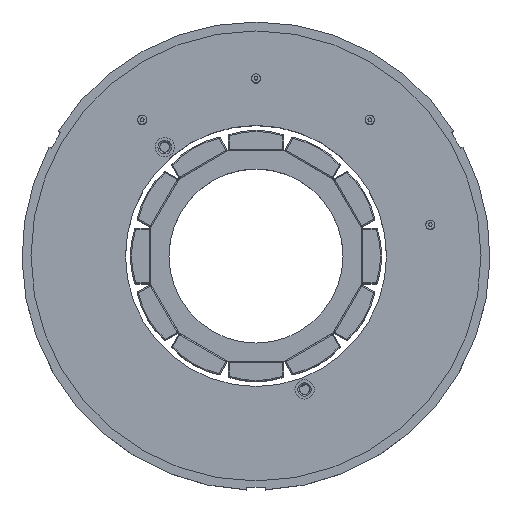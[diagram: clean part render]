
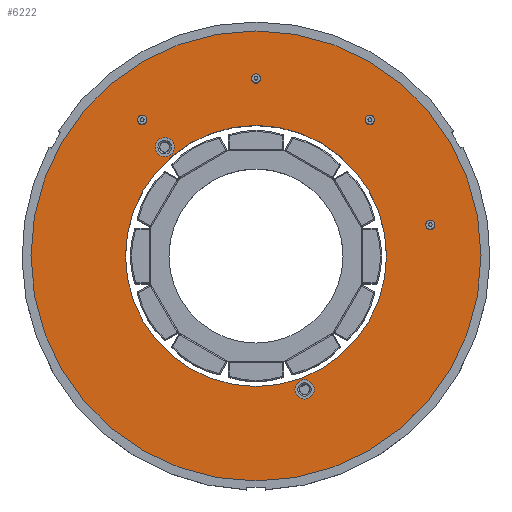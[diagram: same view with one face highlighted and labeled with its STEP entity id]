
A CAD part, top view. The second image highlights one B-rep face of the part: STEP entity #6222.
In plain terms, the highlighted planar face has unit normal (0, 0, 1).
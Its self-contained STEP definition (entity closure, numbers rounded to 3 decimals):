
#1268=PLANE('',#6887);
#1430=ORIENTED_EDGE('',*,*,#3053,.T.);
#1431=ORIENTED_EDGE('',*,*,#3055,.T.);
#1432=ORIENTED_EDGE('',*,*,#3056,.T.);
#1433=ORIENTED_EDGE('',*,*,#3057,.T.);
#1434=ORIENTED_EDGE('',*,*,#3058,.T.);
#1435=ORIENTED_EDGE('',*,*,#3059,.T.);
#1436=ORIENTED_EDGE('',*,*,#3060,.T.);
#1437=ORIENTED_EDGE('',*,*,#3061,.F.);
#3053=EDGE_CURVE('',#4157,#4157,#4871,.T.);
#3055=EDGE_CURVE('',#4159,#4159,#4873,.T.);
#3056=EDGE_CURVE('',#4160,#4160,#4874,.T.);
#3057=EDGE_CURVE('',#4161,#4161,#4875,.T.);
#3058=EDGE_CURVE('',#4162,#4162,#4876,.T.);
#3059=EDGE_CURVE('',#4163,#4163,#4877,.T.);
#3060=EDGE_CURVE('',#4164,#4164,#4878,.T.);
#3061=EDGE_CURVE('',#4165,#4165,#4879,.T.);
#4157=VERTEX_POINT('',#9393);
#4159=VERTEX_POINT('',#9398);
#4160=VERTEX_POINT('',#9401);
#4161=VERTEX_POINT('',#9403);
#4162=VERTEX_POINT('',#9405);
#4163=VERTEX_POINT('',#9407);
#4164=VERTEX_POINT('',#9409);
#4165=VERTEX_POINT('',#9411);
#4871=CIRCLE('',#6883,1.6);
#4873=CIRCLE('',#6886,1.6);
#4874=CIRCLE('',#6888,0.5);
#4875=CIRCLE('',#6889,0.5);
#4876=CIRCLE('',#6890,0.5);
#4877=CIRCLE('',#6891,0.5);
#4878=CIRCLE('',#6892,21.75);
#4879=CIRCLE('',#6893,37.5);
#5236=EDGE_LOOP('',(#1430));
#5237=EDGE_LOOP('',(#1431));
#5238=EDGE_LOOP('',(#1432));
#5239=EDGE_LOOP('',(#1433));
#5240=EDGE_LOOP('',(#1434));
#5241=EDGE_LOOP('',(#1435));
#5242=EDGE_LOOP('',(#1436));
#5243=EDGE_LOOP('',(#1437));
#5672=FACE_BOUND('',#5236,.T.);
#5673=FACE_BOUND('',#5237,.T.);
#5674=FACE_BOUND('',#5238,.T.);
#5675=FACE_BOUND('',#5239,.T.);
#5676=FACE_BOUND('',#5240,.T.);
#5677=FACE_BOUND('',#5241,.T.);
#5678=FACE_BOUND('',#5242,.T.);
#5679=FACE_BOUND('',#5243,.T.);
#6222=ADVANCED_FACE('',(#5672,#5673,#5674,#5675,#5676,#5677,#5678,#5679),
#1268,.F.);
#6883=AXIS2_PLACEMENT_3D('',#9392,#7586,#7587);
#6886=AXIS2_PLACEMENT_3D('',#9397,#7592,#7593);
#6887=AXIS2_PLACEMENT_3D('',#9399,#7594,#7595);
#6888=AXIS2_PLACEMENT_3D('',#9400,#7596,#7597);
#6889=AXIS2_PLACEMENT_3D('',#9402,#7598,#7599);
#6890=AXIS2_PLACEMENT_3D('',#9404,#7600,#7601);
#6891=AXIS2_PLACEMENT_3D('',#9406,#7602,#7603);
#6892=AXIS2_PLACEMENT_3D('',#9408,#7604,#7605);
#6893=AXIS2_PLACEMENT_3D('',#9410,#7606,#7607);
#7586=DIRECTION('',(0.,0.,-1.));
#7587=DIRECTION('',(0.,-1.,0.));
#7592=DIRECTION('',(0.,0.,-1.));
#7593=DIRECTION('',(0.,-1.,0.));
#7594=DIRECTION('',(0.,0.,-1.));
#7595=DIRECTION('',(-1.,0.,0.));
#7596=DIRECTION('',(0.,0.,-1.));
#7597=DIRECTION('',(0.,-1.,0.));
#7598=DIRECTION('',(0.,0.,-1.));
#7599=DIRECTION('',(0.,-1.,0.));
#7600=DIRECTION('',(0.,0.,-1.));
#7601=DIRECTION('',(0.,-1.,0.));
#7602=DIRECTION('',(0.,0.,-1.));
#7603=DIRECTION('',(0.,-1.,0.));
#7604=DIRECTION('',(0.,0.,-1.));
#7605=DIRECTION('',(1.,0.,0.));
#7606=DIRECTION('',(0.,0.,-1.));
#7607=DIRECTION('',(1.,0.,0.));
#9392=CARTESIAN_POINT('',(8.096,-22.243,13.25));
#9393=CARTESIAN_POINT('',(8.096,-23.843,13.25));
#9397=CARTESIAN_POINT('',(-15.215,18.132,13.25));
#9398=CARTESIAN_POINT('',(-15.215,16.532,13.25));
#9399=CARTESIAN_POINT('',(0.,0.,13.25));
#9400=CARTESIAN_POINT('',(-18.962,22.598,13.25));
#9401=CARTESIAN_POINT('',(-18.962,22.098,13.25));
#9402=CARTESIAN_POINT('',(29.052,5.123,13.25));
#9403=CARTESIAN_POINT('',(29.052,4.623,13.25));
#9404=CARTESIAN_POINT('',(18.962,22.598,13.25));
#9405=CARTESIAN_POINT('',(18.962,22.098,13.25));
#9406=CARTESIAN_POINT('',(0.,29.5,13.25));
#9407=CARTESIAN_POINT('',(0.,29.,13.25));
#9408=CARTESIAN_POINT('',(0.,0.,13.25));
#9409=CARTESIAN_POINT('',(21.75,0.,13.25));
#9410=CARTESIAN_POINT('',(0.,0.,13.25));
#9411=CARTESIAN_POINT('',(37.5,0.,13.25));
